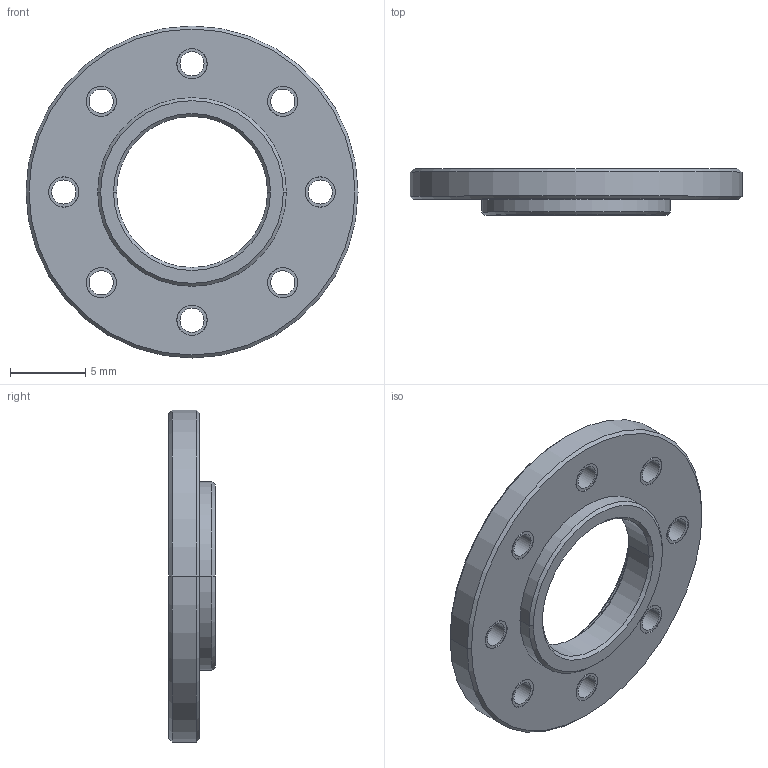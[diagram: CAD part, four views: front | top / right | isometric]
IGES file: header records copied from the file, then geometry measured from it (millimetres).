
Start section:  PTC IGES file: rx28_horn_idle.igs
Global section: file name: rx28_horn_idle.igs; native system: Pro/ENGINEER by Parametric Technology Corporation; preprocessor: 2006170; author: bono; organization: Unknown; date: 20061227.145750; units: millimetre
Bounding box: 22 x 3.05 x 22 mm (x, y, z)
Surface area: 1346.8 mm2 (no closed solid volume)
Topology: 0 solids, 0 shells, 88 faces, 736 edges, 912 vertices
Faces by surface type: revolution 84, bspline 4
